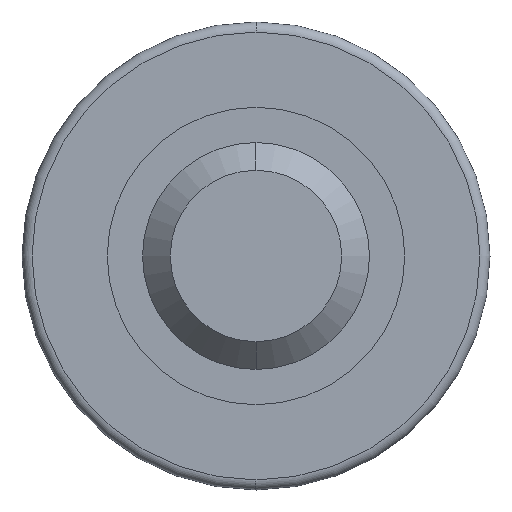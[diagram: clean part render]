
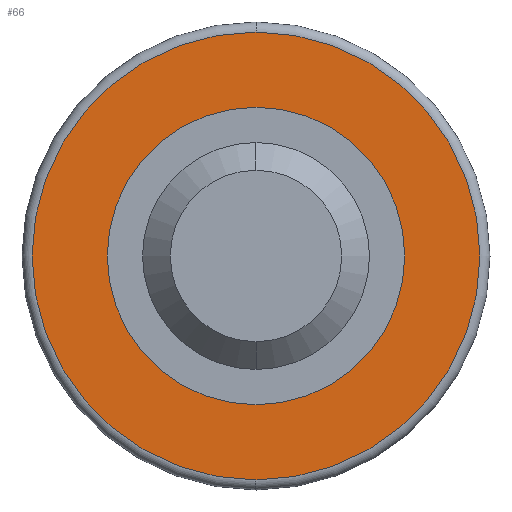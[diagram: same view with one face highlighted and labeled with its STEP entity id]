
A CAD part, left-side view. The second image highlights one B-rep face of the part: STEP entity #66.
In plain terms, the highlighted planar face has unit normal (-1, 0, 0).
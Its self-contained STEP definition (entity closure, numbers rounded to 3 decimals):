
#3 = VERTEX_POINT ( 'NONE', #44 ) ;
#22 = FACE_OUTER_BOUND ( 'NONE', #586, .T. ) ;
#30 = AXIS2_PLACEMENT_3D ( 'NONE', #243, #70, #326 ) ;
#31 = CARTESIAN_POINT ( 'NONE',  ( 23.5, 0., 0. ) ) ;
#44 = CARTESIAN_POINT ( 'NONE',  ( 23.5, 0., -29.5 ) ) ;
#63 = VERTEX_POINT ( 'NONE', #621 ) ;
#66 = ADVANCED_FACE ( 'NONE', ( #22, #490 ), #403, .T. ) ;
#70 = DIRECTION ( 'NONE',  ( -1., 0., 0. ) ) ;
#72 = AXIS2_PLACEMENT_3D ( 'NONE', #125, #442, #73 ) ;
#73 = DIRECTION ( 'NONE',  ( 0., 0., 1. ) ) ;
#78 = CARTESIAN_POINT ( 'NONE',  ( 23.5, 0., 0. ) ) ;
#97 = DIRECTION ( 'NONE',  ( 1., 0., 0. ) ) ;
#103 = CIRCLE ( 'NONE', #360, 29.5 ) ;
#121 = DIRECTION ( 'NONE',  ( 0., 0., -1. ) ) ;
#125 = CARTESIAN_POINT ( 'NONE',  ( 23.5, 0., 0. ) ) ;
#142 = VERTEX_POINT ( 'NONE', #347 ) ;
#188 = CARTESIAN_POINT ( 'NONE',  ( 23.5, 0., 0. ) ) ;
#191 = EDGE_CURVE ( 'NONE', #142, #438, #327, .T. ) ;
#243 = CARTESIAN_POINT ( 'NONE',  ( 23.5, 0., -44.2 ) ) ;
#257 = CIRCLE ( 'NONE', #72, 44.4 ) ;
#326 = DIRECTION ( 'NONE',  ( 0., 0., 1. ) ) ;
#327 = CIRCLE ( 'NONE', #423, 44.4 ) ;
#334 = DIRECTION ( 'NONE',  ( 1., 0., 0. ) ) ;
#342 = CIRCLE ( 'NONE', #418, 29.5 ) ;
#347 = CARTESIAN_POINT ( 'NONE',  ( 23.5, 0., -44.4 ) ) ;
#360 = AXIS2_PLACEMENT_3D ( 'NONE', #188, #97, #121 ) ;
#372 = EDGE_LOOP ( 'NONE', ( #519, #607 ) ) ;
#403 = PLANE ( 'NONE',  #30 ) ;
#416 = ORIENTED_EDGE ( 'NONE', *, *, #191, .T. ) ;
#418 = AXIS2_PLACEMENT_3D ( 'NONE', #31, #334, #608 ) ;
#423 = AXIS2_PLACEMENT_3D ( 'NONE', #78, #561, #502 ) ;
#438 = VERTEX_POINT ( 'NONE', #572 ) ;
#442 = DIRECTION ( 'NONE',  ( -1., 0., 0. ) ) ;
#460 = EDGE_CURVE ( 'NONE', #63, #3, #342, .T. ) ;
#467 = EDGE_CURVE ( 'NONE', #3, #63, #103, .T. ) ;
#490 = FACE_BOUND ( 'NONE', #372, .T. ) ;
#502 = DIRECTION ( 'NONE',  ( 0., 0., 1. ) ) ;
#519 = ORIENTED_EDGE ( 'NONE', *, *, #467, .T. ) ;
#542 = EDGE_CURVE ( 'NONE', #438, #142, #257, .T. ) ;
#561 = DIRECTION ( 'NONE',  ( -1., 0., 0. ) ) ;
#572 = CARTESIAN_POINT ( 'NONE',  ( 23.5, 0., 44.4 ) ) ;
#573 = ORIENTED_EDGE ( 'NONE', *, *, #542, .T. ) ;
#586 = EDGE_LOOP ( 'NONE', ( #573, #416 ) ) ;
#607 = ORIENTED_EDGE ( 'NONE', *, *, #460, .T. ) ;
#608 = DIRECTION ( 'NONE',  ( 0., 0., -1. ) ) ;
#621 = CARTESIAN_POINT ( 'NONE',  ( 23.5, 0., 29.5 ) ) ;
